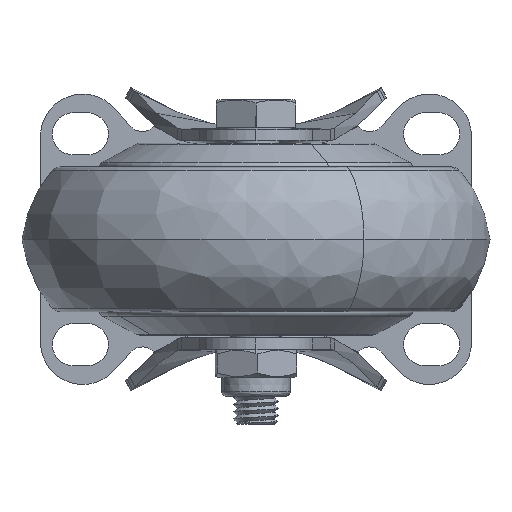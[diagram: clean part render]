
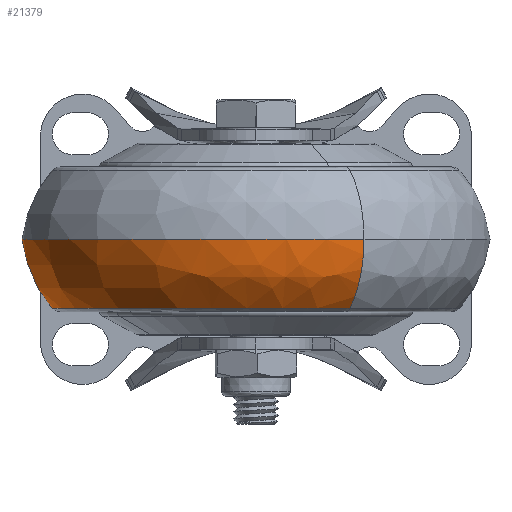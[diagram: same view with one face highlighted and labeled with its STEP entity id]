
A CAD part, front view. The second image highlights one B-rep face of the part: STEP entity #21379.
In plain terms, the highlighted free-form (B-spline) face has degree [3, 3] with [4, 4] control points.
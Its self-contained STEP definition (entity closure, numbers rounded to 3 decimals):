
#55 = VERTEX_POINT ( 'NONE', #14577 ) ;
#615 = DIRECTION ( 'NONE',  ( 0., -1., 0. ) ) ;
#1564 = CARTESIAN_POINT ( 'NONE',  ( 14.706, -87.11, -43.555 ) ) ;
#2476 = EDGE_CURVE ( 'NONE', #55, #17629, #19717, .T. ) ;
#2697 = DIRECTION ( 'NONE',  ( 0., 0., -1. ) ) ;
#2857 = AXIS2_PLACEMENT_3D ( 'NONE', #10222, #6725, #16918 ) ;
#2886 = CARTESIAN_POINT ( 'NONE',  ( 10.863, -95.448, -47.724 ) ) ;
#3234 = ORIENTED_EDGE ( 'NONE', *, *, #14285, .T. ) ;
#3801 = EDGE_CURVE ( 'NONE', #19422, #10140, #6835, .T. ) ;
#4207 = ORIENTED_EDGE ( 'NONE', *, *, #3801, .T. ) ;
#4552 = CARTESIAN_POINT ( 'NONE',  ( 0., 0., -50. ) ) ;
#5993 = ORIENTED_EDGE ( 'NONE', *, *, #2476, .F. ) ;
#6123 = EDGE_CURVE ( 'NONE', #17629, #10140, #20036, .T. ) ;
#6202 = CARTESIAN_POINT ( 'NONE',  ( 5.67, -100., -50. ) ) ;
#6303 = FACE_OUTER_BOUND ( 'NONE', #6309, .T. ) ;
#6309 = EDGE_LOOP ( 'NONE', ( #5993, #3234, #4207, #16290 ) ) ;
#6725 = DIRECTION ( 'NONE',  ( -1., 0., 0. ) ) ;
#6835 = CIRCLE ( 'NONE', #8911, 43.555 ) ;
#8388 = CARTESIAN_POINT ( 'NONE',  ( 5.67, 0., -50. ) ) ;
#8911 = AXIS2_PLACEMENT_3D ( 'NONE', #9662, #21321, #16356 ) ;
#9124 = CARTESIAN_POINT ( 'NONE',  ( 0., 0., 50. ) ) ;
#9662 = CARTESIAN_POINT ( 'NONE',  ( 14.706, 0., 0. ) ) ;
#9908 = CARTESIAN_POINT ( 'NONE',  ( 0., -100., -50. ) ) ;
#10004 = AXIS2_PLACEMENT_3D ( 'NONE', #14012, #615, #2697 ) ;
#10140 = VERTEX_POINT ( 'NONE', #13681 ) ;
#10222 = CARTESIAN_POINT ( 'NONE',  ( 0., 0., 0. ) ) ;
#10999 = CARTESIAN_POINT ( 'NONE',  ( 14.706, 0., -43.555 ) ) ;
#11251 = CARTESIAN_POINT ( 'NONE',  ( 5.67, -100., 50. ) ) ;
#11360 = CARTESIAN_POINT ( 'NONE',  ( 14.706, 0., 43.555 ) ) ;
#11633 = DIRECTION ( 'NONE',  ( 0., 1., 0. ) ) ;
#13110 = CARTESIAN_POINT ( 'NONE',  ( 10.863, 0., 47.724 ) ) ;
#13681 = CARTESIAN_POINT ( 'NONE',  ( 14.706, 0., 43.555 ) ) ;
#14012 = CARTESIAN_POINT ( 'NONE',  ( 0., 0., -30. ) ) ;
#14285 = EDGE_CURVE ( 'NONE', #55, #19422, #19497, .T. ) ;
#14577 = CARTESIAN_POINT ( 'NONE',  ( 0., 0., -50. ) ) ;
#14768 =( BOUNDED_SURFACE ( )  B_SPLINE_SURFACE ( 3, 3, ( 
 ( #4552, #9908, #18262, #16605 ),
 ( #8388, #6202, #11251, #17938 ),
 ( #16493, #2886, #19706, #13110 ),
 ( #21452, #1564, #18155, #11360 ) ),
 .UNSPECIFIED., .F., .F., .F. ) 
 B_SPLINE_SURFACE_WITH_KNOTS ( ( 4, 4 ),
 ( 4, 4 ),
 ( 0., 1. ),
 ( 0., 1. ),
 .UNSPECIFIED. ) 
 GEOMETRIC_REPRESENTATION_ITEM ( )  RATIONAL_B_SPLINE_SURFACE ( (
 ( 1., 0.333, 0.333, 1.),
 ( 0.944, 0.315, 0.315, 0.944),
 ( 0.944, 0.315, 0.315, 0.944),
 ( 1., 0.333, 0.333, 1.) ) ) 
 REPRESENTATION_ITEM ( '' )  SURFACE ( )  );
#14913 = CARTESIAN_POINT ( 'NONE',  ( 0., 0., 30. ) ) ;
#16290 = ORIENTED_EDGE ( 'NONE', *, *, #6123, .F. ) ;
#16356 = DIRECTION ( 'NONE',  ( 0., 0., 1. ) ) ;
#16493 = CARTESIAN_POINT ( 'NONE',  ( 10.863, 0., -47.724 ) ) ;
#16516 = AXIS2_PLACEMENT_3D ( 'NONE', #14913, #11633, #18433 ) ;
#16605 = CARTESIAN_POINT ( 'NONE',  ( 0., 0., 50. ) ) ;
#16918 = DIRECTION ( 'NONE',  ( 0., 0., 1. ) ) ;
#17629 = VERTEX_POINT ( 'NONE', #9124 ) ;
#17938 = CARTESIAN_POINT ( 'NONE',  ( 5.67, 0., 50. ) ) ;
#18155 = CARTESIAN_POINT ( 'NONE',  ( 14.706, -87.11, 43.555 ) ) ;
#18262 = CARTESIAN_POINT ( 'NONE',  ( 0., -100., 50. ) ) ;
#18433 = DIRECTION ( 'NONE',  ( 0., 0., 1. ) ) ;
#19422 = VERTEX_POINT ( 'NONE', #10999 ) ;
#19497 = CIRCLE ( 'NONE', #10004, 20. ) ;
#19706 = CARTESIAN_POINT ( 'NONE',  ( 10.863, -95.448, 47.724 ) ) ;
#19717 = CIRCLE ( 'NONE', #2857, 50. ) ;
#20036 = CIRCLE ( 'NONE', #16516, 20. ) ;
#21321 = DIRECTION ( 'NONE',  ( -1., 0., 0. ) ) ;
#21379 = ADVANCED_FACE ( 'NONE', ( #6303 ), #14768, .T. ) ;
#21452 = CARTESIAN_POINT ( 'NONE',  ( 14.706, 0., -43.555 ) ) ;
